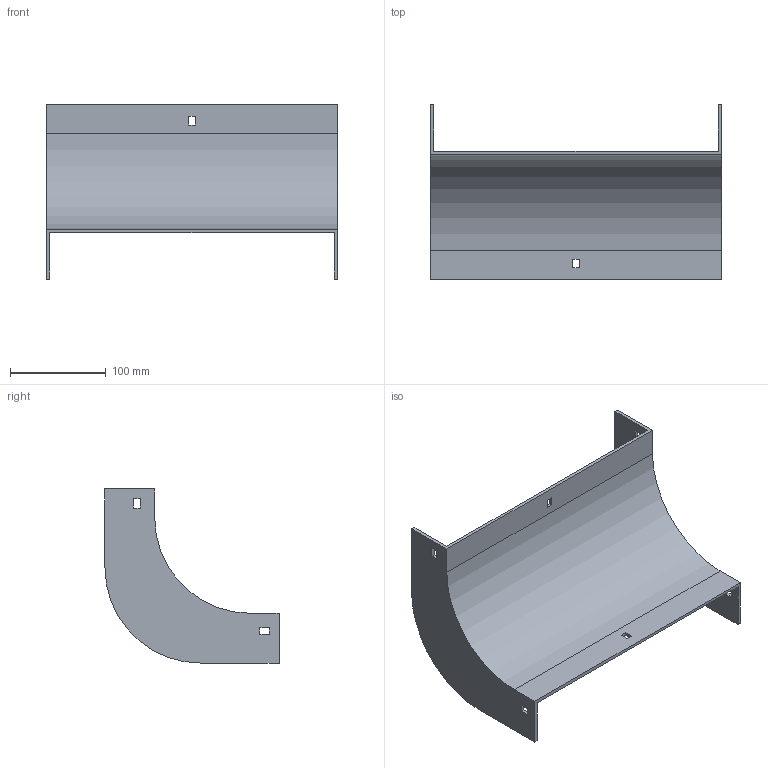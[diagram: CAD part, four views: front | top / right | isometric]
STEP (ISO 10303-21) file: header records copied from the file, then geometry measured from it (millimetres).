
FILE_DESCRIPTION (( 'STEP AP214' ), '1' );
FILE_NAME ('33F1B300.step', '2025-02-21T12:52:27', ( '' ), ( '' ), 'SwSTEP 2.0', 'SolidWorks 2023', '' );
FILE_SCHEMA (( 'AUTOMOTIVE_DESIGN' ));
Length unit declared in the file: millimetre
Products named in the file (1): 33F1B300
Bounding box: 304 x 182 x 182 mm (x, y, z)
Volume: 340690.3 mm3; surface area: 200408.5 mm2
Topology: 1 solids, 1 shells, 42 faces, 120 edges, 80 vertices
Faces by surface type: plane 38, cylinder 4
Entity records: 1399 total; most frequent: CARTESIAN_POINT 243, ORIENTED_EDGE 240, DIRECTION 214, EDGE_CURVE 120, LINE 112, VECTOR 112, VERTEX_POINT 80, EDGE_LOOP 54
